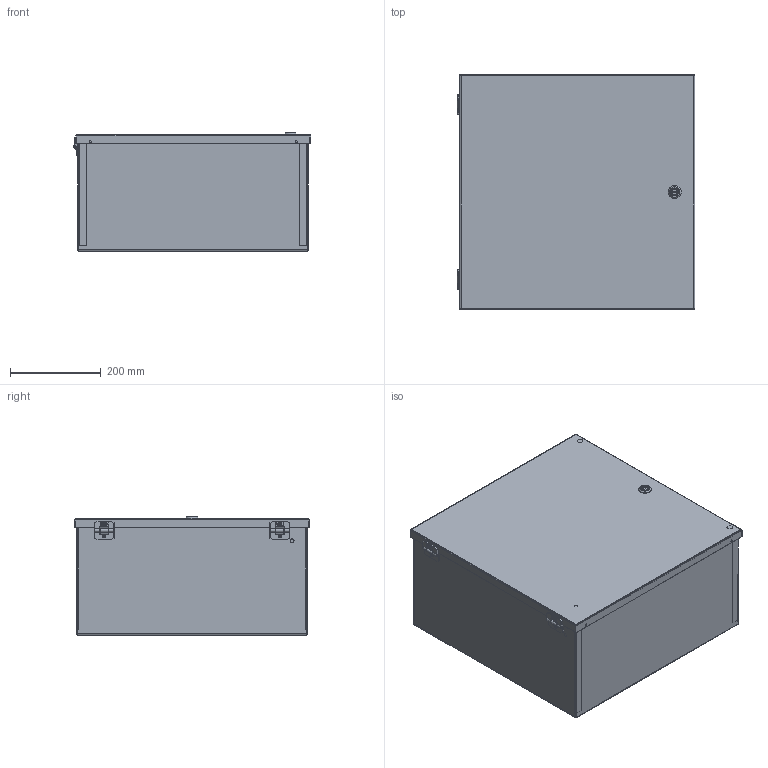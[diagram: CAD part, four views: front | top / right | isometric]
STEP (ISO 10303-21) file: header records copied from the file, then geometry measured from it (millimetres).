
FILE_DESCRIPTION((''),'2;1');
FILE_NAME('MODEL-170_ASM','2025-07-28T12:13:45',('richards'),('SAGINAW CONTROL & ENGINEERING'),'CREO PARAMETRIC BY PTC INC, 2021284','CREO PARAMETRIC BY PTC INC, 2021284','');
FILE_SCHEMA(('AUTOMOTIVE_DESIGN { 1 0 10303 214 1 1 1 1 }'));
Length unit declared in the file: inch
Products named in the file (20): MODEL-170-BDY; MODEL-170-DR; 128691-DOOR-LEAF; 128691-BOX-LEAF; 128691-DOOR-LEAF-STUD; 128691-PIN; 128691-BOX-LEAF-STUD; 128691_ASM; 129266; 128578; 128579; 105060; 100837; MODEL-170-DOOR-ASSY_ASM; 123580; 101661; SUBPANEL; 102522; SUBPANEL-SUBASSEMBLY_ASM; MODEL-170_ASM
Assembly tree (31 placements, depth 4):
  MODEL-170_ASM
    MODEL-170-BDY
    MODEL-170-DOOR-ASSY_ASM
      MODEL-170-DR
      128691_ASM  x2
        128691-DOOR-LEAF
        128691-BOX-LEAF
        128691-DOOR-LEAF-STUD
        128691-PIN
        128691-BOX-LEAF-STUD
      129266  x4
      128578
      128579
      105060  x2
      100837
    123580
    100837
    101661  x4
    SUBPANEL-SUBASSEMBLY_ASM
      SUBPANEL
      102522  x4
Bounding box: 523.04 x 517.52 x 260.99 mm (x, y, z)
Volume: 2119811.4 mm3; surface area: 2675946.3 mm2
Topology: 31 solids, 31 shells, 3337 faces, 8757 edges, 5436 vertices
Faces by surface type: plane 1167, cylinder 1101, bspline 770, torus 140, cone 119, sphere 40
Entity records: 98306 total; most frequent: CARTESIAN_POINT 50753, ORIENTED_EDGE 7376, DIRECTION 6483, PRESENTATION_STYLE_ASSIGNMENT 3705, STYLED_ITEM 3703, CURVE_STYLE 3688, EDGE_CURVE 3688, AXIS2_PLACEMENT_3D 2396
